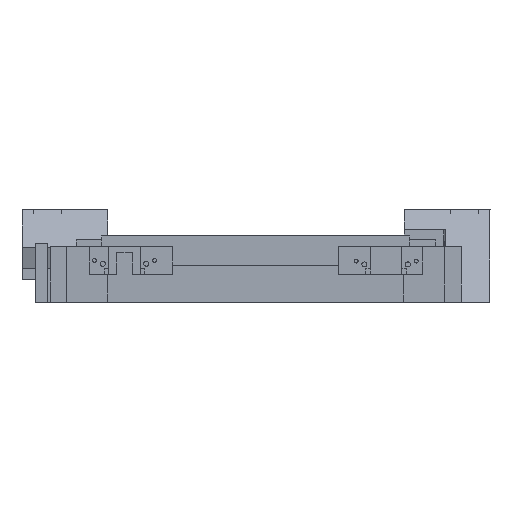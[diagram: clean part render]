
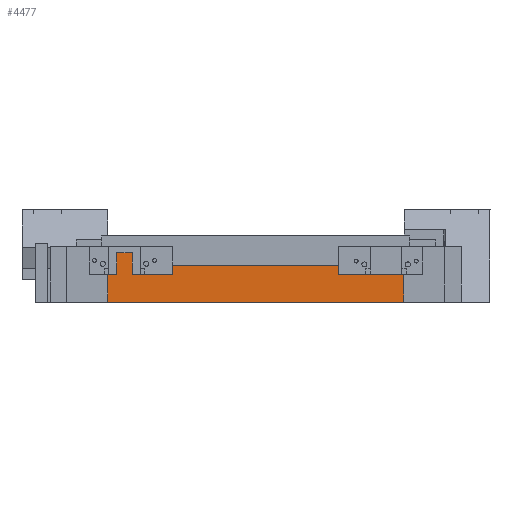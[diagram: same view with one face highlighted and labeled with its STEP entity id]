
A CAD part, left-side view. The second image highlights one B-rep face of the part: STEP entity #4477.
In plain terms, the highlighted planar face has unit normal (-1, 0.001, 0).
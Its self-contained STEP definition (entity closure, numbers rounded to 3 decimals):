
#4439=AXIS2_PLACEMENT_3D('Plane Axis2P3D',#4436,#4437,#4438) ;
#1936=CARTESIAN_POINT('Line Origine',(-50.14,-729.705,485.747)) ;
#1940=CARTESIAN_POINT('Vertex',(-50.082,-630.205,485.739)) ;
#1942=CARTESIAN_POINT('Vertex',(-50.198,-829.205,485.755)) ;
#2274=CARTESIAN_POINT('Line Origine',(-50.198,-829.205,486.754)) ;
#2278=CARTESIAN_POINT('Vertex',(-50.199,-829.205,487.754)) ;
#2342=CARTESIAN_POINT('Vertex',(-50.083,-630.205,487.739)) ;
#2345=CARTESIAN_POINT('Line Origine',(-50.083,-630.205,486.739)) ;
#3435=CARTESIAN_POINT('Line Origine',(-50.208,-845.955,487.755)) ;
#3439=CARTESIAN_POINT('Vertex',(-50.218,-862.705,487.757)) ;
#4436=CARTESIAN_POINT('Axis2P3D Location',(-50.227,-879.207,458.758)) ;
#4441=CARTESIAN_POINT('Line Origine',(-50.139,-729.708,440.215)) ;
#4445=CARTESIAN_POINT('Vertex',(-50.062,-596.708,440.205)) ;
#4447=CARTESIAN_POINT('Vertex',(-50.217,-862.708,440.225)) ;
#4450=CARTESIAN_POINT('Line Origine',(-50.217,-862.707,463.991)) ;
#4455=CARTESIAN_POINT('Line Origine',(-50.073,-613.455,487.737)) ;
#4459=CARTESIAN_POINT('Vertex',(-50.063,-596.705,487.736)) ;
#4462=CARTESIAN_POINT('Line Origine',(-50.062,-596.707,463.97)) ;
#1937=DIRECTION('Vector Direction',(0.001,1.,0.)) ;
#2275=DIRECTION('Vector Direction',(0.,0.,-1.)) ;
#2346=DIRECTION('Vector Direction',(0.,0.,-1.)) ;
#3436=DIRECTION('Vector Direction',(-0.001,-1.,0.)) ;
#4437=DIRECTION('Axis2P3D Direction',(-1.,0.001,0.)) ;
#4438=DIRECTION('Axis2P3D XDirection',(0.,0.,1.)) ;
#4442=DIRECTION('Vector Direction',(-0.001,-1.,0.)) ;
#4451=DIRECTION('Vector Direction',(0.,0.,1.)) ;
#4456=DIRECTION('Vector Direction',(-0.001,-1.,0.)) ;
#4463=DIRECTION('Vector Direction',(0.,0.,1.)) ;
#1938=VECTOR('Line Direction',#1937,1.) ;
#2276=VECTOR('Line Direction',#2275,1.) ;
#2347=VECTOR('Line Direction',#2346,1.) ;
#3437=VECTOR('Line Direction',#3436,1.) ;
#4443=VECTOR('Line Direction',#4442,1.) ;
#4452=VECTOR('Line Direction',#4451,1.) ;
#4457=VECTOR('Line Direction',#4456,1.) ;
#4464=VECTOR('Line Direction',#4463,1.) ;
#4468=ORIENTED_EDGE('',*,*,#4449,.T.) ;
#4469=ORIENTED_EDGE('',*,*,#4454,.T.) ;
#4470=ORIENTED_EDGE('',*,*,#3441,.F.) ;
#4471=ORIENTED_EDGE('',*,*,#2280,.T.) ;
#4472=ORIENTED_EDGE('',*,*,#1944,.F.) ;
#4473=ORIENTED_EDGE('',*,*,#2349,.F.) ;
#4474=ORIENTED_EDGE('',*,*,#4461,.F.) ;
#4475=ORIENTED_EDGE('',*,*,#4466,.F.) ;
#4477=ADVANCED_FACE('\X2\96F64EF651E04F554F53\X0\',(#4476),#4440,.T.) ;
#1944=EDGE_CURVE('',#1941,#1943,#1939,.F.) ;
#2280=EDGE_CURVE('',#2279,#1943,#2277,.T.) ;
#2349=EDGE_CURVE('',#2343,#1941,#2348,.T.) ;
#3441=EDGE_CURVE('',#2279,#3440,#3438,.T.) ;
#4449=EDGE_CURVE('',#4446,#4448,#4444,.T.) ;
#4454=EDGE_CURVE('',#4448,#3440,#4453,.T.) ;
#4461=EDGE_CURVE('',#4460,#2343,#4458,.T.) ;
#4466=EDGE_CURVE('',#4446,#4460,#4465,.T.) ;
#4467=EDGE_LOOP('',(#4468,#4469,#4470,#4471,#4472,#4473,#4474,#4475)) ;
#4476=FACE_OUTER_BOUND('',#4467,.T.) ;
#1939=LINE('Line',#1936,#1938) ;
#2277=LINE('Line',#2274,#2276) ;
#2348=LINE('Line',#2345,#2347) ;
#3438=LINE('Line',#3435,#3437) ;
#4444=LINE('Line',#4441,#4443) ;
#4453=LINE('Line',#4450,#4452) ;
#4458=LINE('Line',#4455,#4457) ;
#4465=LINE('Line',#4462,#4464) ;
#4440=PLANE('',#4439) ;
#1941=VERTEX_POINT('',#1940) ;
#1943=VERTEX_POINT('',#1942) ;
#2279=VERTEX_POINT('',#2278) ;
#2343=VERTEX_POINT('',#2342) ;
#3440=VERTEX_POINT('',#3439) ;
#4446=VERTEX_POINT('',#4445) ;
#4448=VERTEX_POINT('',#4447) ;
#4460=VERTEX_POINT('',#4459) ;
